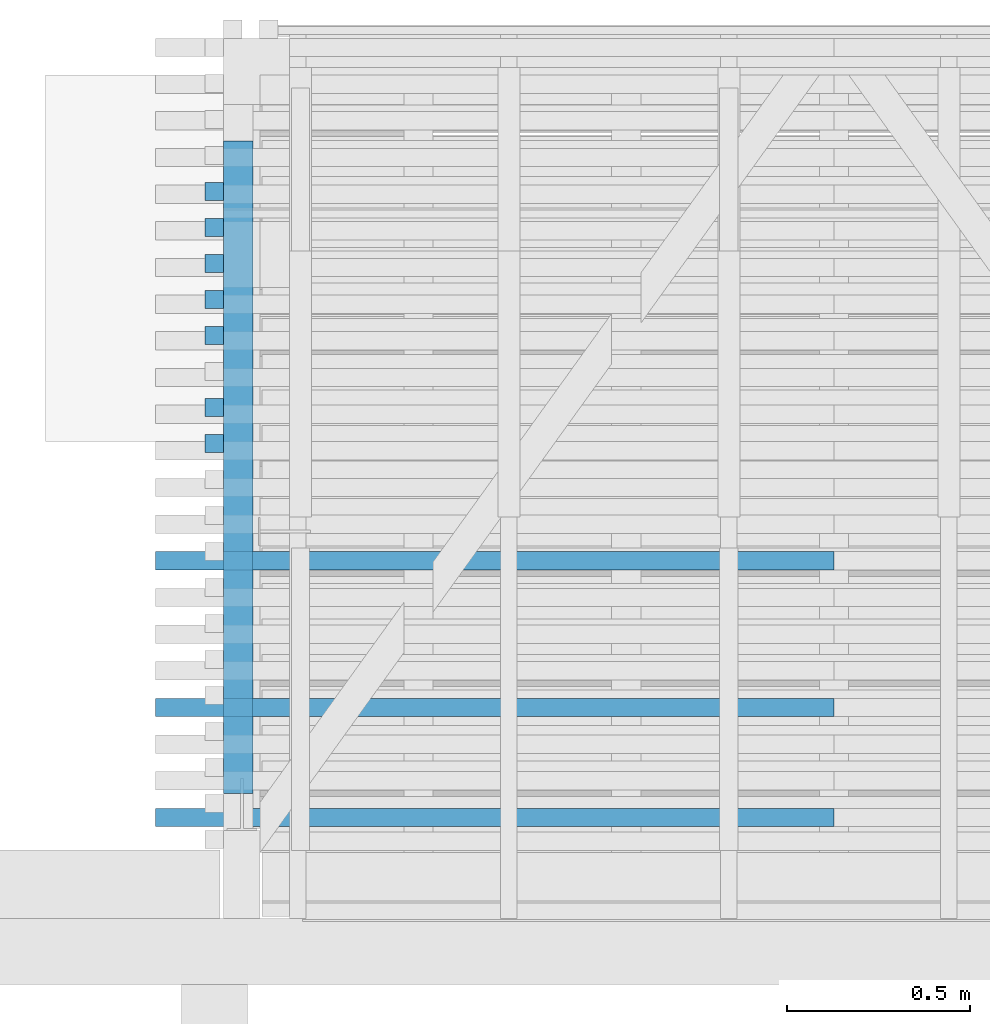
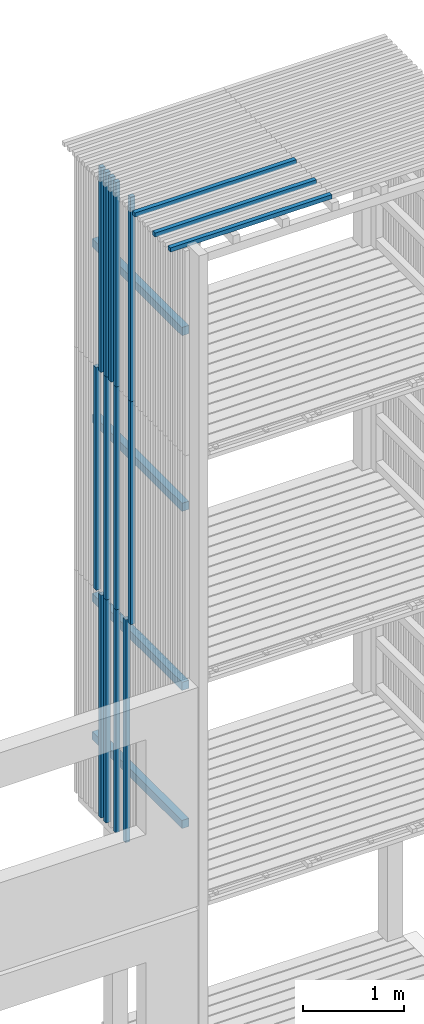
# One storey, part 60 of 182: 20 beams.
"""IFC2X3 building model written with IfcOpenShell, lengths in metres."""

from ifc_helpers import new_model, si_unit, frame, origin, place, context, project, spatial, faceted_brep, element, save


model = new_model("IFC2X3")

# Units and contexts
model_context = context("Model", 3, precision=1e-06, world=origin())
ifc_project = project(units=[si_unit("LENGTHUNIT", "METRE"), si_unit("PLANEANGLEUNIT", "RADIAN")], contexts=[model_context])

# Site, building, storey
site = spatial("IfcSite", under=ifc_project, CompositionType="ELEMENT")
building = spatial("IfcBuilding", under=site, CompositionType="ELEMENT")
storey = spatial("IfcBuildingStorey", under=building, Name="vs", CompositionType="ELEMENT", Elevation=-0.85)

# Beams
placement = place(None, origin())
beam_1_placement = place(placement, frame((23.019999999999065, 11.765077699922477, 5.274999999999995), z_axis=(1.0, 0.0, 0.0), x_axis=(0.0, 1e-15, 1.0)))
element("IfcBeam", 1, at=beam_1_placement, inside=storey, Name="Bardage", context=model_context, shape_type="Brep", body=[
    faceted_brep([(2.699999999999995, 0.025000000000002, 0.025000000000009), (2.699999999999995, -0.025000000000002, 0.025000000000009), (2.699999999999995, -0.025000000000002, -0.025000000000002), (2.699999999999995, 0.025000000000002, -0.025000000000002), (1e-15, 0.024999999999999, 0.025000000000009), (2.699999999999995, 0.025000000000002, 0.025000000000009), (2.699999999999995, 0.025000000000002, -0.025000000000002), (1e-15, 0.024999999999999, -0.025000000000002), (1e-15, -0.025000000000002, 0.025000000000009), (1e-15, 0.024999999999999, 0.025000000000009), (1e-15, 0.024999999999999, -0.025000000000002), (1e-15, -0.025000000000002, -0.025000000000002), (1e-15, 0.024999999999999, 0.025000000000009), (1e-15, -0.025000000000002, 0.025000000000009), (2.699999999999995, -0.025000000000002, 0.025000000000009), (2.699999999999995, 0.025000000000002, 0.025000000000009), (1e-15, -0.025000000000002, 0.025000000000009), (1e-15, -0.025000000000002, -0.025000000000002), (2.699999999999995, -0.025000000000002, -0.025000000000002), (2.699999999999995, -0.025000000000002, 0.025000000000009), (1e-15, -0.025000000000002, -0.025000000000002), (1e-15, 0.024999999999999, -0.025000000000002), (2.699999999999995, 0.025000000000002, -0.025000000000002), (2.699999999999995, -0.025000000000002, -0.025000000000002)], [[[0, 1, 2, 3]], [[4, 5, 6, 7]], [[8, 9, 10, 11]], [[12, 13, 14, 15]], [[16, 17, 18, 19]], [[20, 21, 22, 23]]]),
])
beam_2_placement = place(placement, frame((23.019999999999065, 12.354168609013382, 7.974999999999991), z_axis=(1.0, 0.0, 0.0), x_axis=(0.0, 0.0, 1.0)))
element("IfcBeam", 2, at=beam_2_placement, inside=storey, Name="Bardage", context=model_context, shape_type="Brep", body=[
    faceted_brep([(0.0, -0.024999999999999, 0.025000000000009), (0.0, 0.025000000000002, 0.025000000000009), (0.0, 0.025000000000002, -0.025000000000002), (0.0, -0.024999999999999, -0.025000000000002), (2.479999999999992, 0.025000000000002, -0.025000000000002), (2.479999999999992, 0.025000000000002, 0.025000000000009), (2.479999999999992, -0.024999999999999, 0.025000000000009), (2.479999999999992, -0.024999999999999, -0.025000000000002), (0.0, 0.025000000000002, 0.025000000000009), (0.0, -0.024999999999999, 0.025000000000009), (2.479999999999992, -0.024999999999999, 0.025000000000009), (2.479999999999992, 0.025000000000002, 0.025000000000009), (0.0, 0.025000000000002, -0.025000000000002), (0.0, 0.025000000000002, 0.025000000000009), (2.479999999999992, 0.025000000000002, 0.025000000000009), (2.479999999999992, 0.025000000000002, -0.025000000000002), (0.0, -0.024999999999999, -0.025000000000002), (0.0, 0.025000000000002, -0.025000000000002), (2.479999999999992, 0.025000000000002, -0.025000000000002), (2.479999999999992, -0.024999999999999, -0.025000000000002), (2.479999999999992, -0.024999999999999, 0.025000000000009), (0.0, -0.024999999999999, 0.025000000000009), (0.0, -0.024999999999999, -0.025000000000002), (2.479999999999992, -0.024999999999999, -0.025000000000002)], [[[0, 1, 2, 3]], [[4, 5, 6, 7]], [[8, 9, 10, 11]], [[12, 13, 14, 15]], [[16, 17, 18, 19]], [[20, 21, 22, 23]]]),
])
beam_3_placement = place(placement, frame((23.019999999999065, 12.354168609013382, 2.575000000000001), z_axis=(1.0, 0.0, 0.0), x_axis=(0.0, 0.0, 1.0)))
element("IfcBeam", 3, at=beam_3_placement, inside=storey, Name="Bardage", context=model_context, shape_type="Brep", body=[
    faceted_brep([(2.699961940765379, -0.024999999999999, 0.025000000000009), (2.699961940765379, -0.024999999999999, -0.025000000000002), (2.699961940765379, 0.025000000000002, -0.025000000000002), (2.699961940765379, 0.025000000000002, 0.025000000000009), (0.0, -0.024999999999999, 0.025000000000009), (2.699961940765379, -0.024999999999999, 0.025000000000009), (2.699961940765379, 0.025000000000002, 0.025000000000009), (0.0, 0.025000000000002, 0.025000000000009), (0.0, -0.024999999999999, 0.025000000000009), (0.0, 0.025000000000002, 0.025000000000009), (0.0, 0.025000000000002, -0.025000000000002), (0.0, -0.024999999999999, -0.025000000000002), (0.0, -0.024999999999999, 0.025000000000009), (0.0, -0.024999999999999, -0.025000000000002), (2.699961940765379, -0.024999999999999, -0.025000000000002), (2.699961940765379, -0.024999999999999, 0.025000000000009), (0.0, -0.024999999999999, -0.025000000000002), (0.0, 0.025000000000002, -0.025000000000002), (2.699961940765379, 0.025000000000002, -0.025000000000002), (2.699961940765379, -0.024999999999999, -0.025000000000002), (0.0, 0.025000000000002, -0.025000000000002), (0.0, 0.025000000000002, 0.025000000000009), (2.699961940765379, 0.025000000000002, 0.025000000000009), (2.699961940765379, 0.025000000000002, -0.025000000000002)], [[[0, 1, 2, 3]], [[4, 5, 6, 7]], [[8, 9, 10, 11]], [[12, 13, 14, 15]], [[16, 17, 18, 19]], [[20, 21, 22, 23]]]),
])
beam_4_placement = place(placement, frame((23.08499999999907, 10.8100776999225, 5.074999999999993), z_axis=(0.0, 0.0, 1.0), x_axis=(0.0, 1.0, 0.0)))
element("IfcBeam", 4, at=beam_4_placement, inside=storey, Name="Support bardage", context=model_context, shape_type="Brep", body=[
    faceted_brep([(1.779999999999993, 0.039999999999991, -0.050000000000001), (1.779999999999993, 0.039999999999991, 0.050000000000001), (1.779999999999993, -0.040000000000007, 0.050000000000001), (1.779999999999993, -0.040000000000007, -0.050000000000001), (1.779999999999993, -0.040000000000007, 0.050000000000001), (1.779999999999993, 0.039999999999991, 0.050000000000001), (-4e-15, 0.039999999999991, 0.050000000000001), (-4e-15, -0.040000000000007, 0.050000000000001), (-4e-15, 0.039999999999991, 0.050000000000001), (1.779999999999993, 0.039999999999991, 0.050000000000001), (1.779999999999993, 0.039999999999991, -0.050000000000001), (-4e-15, 0.039999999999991, -0.050000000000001), (1.779999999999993, -0.040000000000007, -0.050000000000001), (1.779999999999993, -0.040000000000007, 0.050000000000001), (-4e-15, -0.040000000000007, 0.050000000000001), (-4e-15, -0.040000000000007, -0.050000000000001), (-4e-15, 0.039999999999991, -0.050000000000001), (1.779999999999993, 0.039999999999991, -0.050000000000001), (1.779999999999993, -0.040000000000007, -0.050000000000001), (-4e-15, -0.040000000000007, -0.050000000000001), (-4e-15, 0.039999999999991, 0.050000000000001), (-4e-15, 0.039999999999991, -0.050000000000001), (-4e-15, -0.040000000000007, -0.050000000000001), (-4e-15, -0.040000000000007, 0.050000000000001)], [[[0, 1, 2, 3]], [[4, 5, 6, 7]], [[8, 9, 10, 11]], [[12, 13, 14, 15]], [[16, 17, 18, 19]], [[20, 21, 22, 23]]]),
])
beam_5_placement = place(placement, frame((23.019999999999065, 12.255986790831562, 7.974999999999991), z_axis=(1.0, 0.0, 0.0), x_axis=(0.0, 0.0, 1.0)))
element("IfcBeam", 5, at=beam_5_placement, inside=storey, Name="Bardage", context=model_context, shape_type="Brep", body=[
    faceted_brep([(0.0, -0.025000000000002, 0.025000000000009), (0.0, 0.024999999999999, 0.025000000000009), (0.0, 0.024999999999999, -0.025000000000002), (0.0, -0.025000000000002, -0.025000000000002), (2.479999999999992, 0.024999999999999, -0.025000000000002), (2.479999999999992, 0.024999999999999, 0.025000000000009), (2.479999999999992, -0.025000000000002, 0.025000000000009), (2.479999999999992, -0.025000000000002, -0.025000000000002), (0.0, 0.024999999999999, 0.025000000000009), (0.0, -0.025000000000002, 0.025000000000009), (2.479999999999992, -0.025000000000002, 0.025000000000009), (2.479999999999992, 0.024999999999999, 0.025000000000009), (0.0, 0.024999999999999, -0.025000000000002), (0.0, 0.024999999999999, 0.025000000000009), (2.479999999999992, 0.024999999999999, 0.025000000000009), (2.479999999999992, 0.024999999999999, -0.025000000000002), (0.0, -0.025000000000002, -0.025000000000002), (0.0, 0.024999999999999, -0.025000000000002), (2.479999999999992, 0.024999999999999, -0.025000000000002), (2.479999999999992, -0.025000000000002, -0.025000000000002), (2.479999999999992, -0.025000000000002, 0.025000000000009), (0.0, -0.025000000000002, 0.025000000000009), (0.0, -0.025000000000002, -0.025000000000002), (2.479999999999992, -0.025000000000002, -0.025000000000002)], [[[0, 1, 2, 3]], [[4, 5, 6, 7]], [[8, 9, 10, 11]], [[12, 13, 14, 15]], [[16, 17, 18, 19]], [[20, 21, 22, 23]]]),
])
beam_6_placement = place(placement, frame((23.019999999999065, 12.452350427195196, 5.274999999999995), z_axis=(1.0, 0.0, 0.0), x_axis=(0.0, 0.0, 1.0)))
element("IfcBeam", 6, at=beam_6_placement, inside=storey, Name="Bardage", context=model_context, shape_type="Brep", body=[
    faceted_brep([(2.699999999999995, 0.024999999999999, 0.025000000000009), (2.699999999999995, -0.024999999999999, 0.025000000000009), (2.699999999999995, -0.024999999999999, -0.025000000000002), (2.699999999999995, 0.024999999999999, -0.025000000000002), (1e-15, 0.024999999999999, 0.025000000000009), (2.699999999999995, 0.024999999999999, 0.025000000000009), (2.699999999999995, 0.024999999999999, -0.025000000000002), (1e-15, 0.024999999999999, -0.025000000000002), (1e-15, -0.024999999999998, 0.025000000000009), (1e-15, 0.024999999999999, 0.025000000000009), (1e-15, 0.024999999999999, -0.025000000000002), (1e-15, -0.024999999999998, -0.025000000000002), (1e-15, 0.024999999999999, 0.025000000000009), (1e-15, -0.024999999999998, 0.025000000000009), (2.699999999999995, -0.024999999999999, 0.025000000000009), (2.699999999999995, 0.024999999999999, 0.025000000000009), (1e-15, -0.024999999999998, 0.025000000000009), (1e-15, -0.024999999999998, -0.025000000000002), (2.699999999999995, -0.024999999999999, -0.025000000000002), (2.699999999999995, -0.024999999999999, 0.025000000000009), (1e-15, -0.024999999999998, -0.025000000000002), (1e-15, 0.024999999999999, -0.025000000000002), (2.699999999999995, 0.024999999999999, -0.025000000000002), (2.699999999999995, -0.024999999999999, -0.025000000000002)], [[[0, 1, 2, 3]], [[4, 5, 6, 7]], [[8, 9, 10, 11]], [[12, 13, 14, 15]], [[16, 17, 18, 19]], [[20, 21, 22, 23]]]),
])
beam_7_placement = place(placement, frame((23.019999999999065, 11.863259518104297, 2.575000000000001), z_axis=(1.0, 0.0, 0.0), x_axis=(0.0, 0.0, 1.0)))
element("IfcBeam", 7, at=beam_7_placement, inside=storey, Name="Bardage", context=model_context, shape_type="Brep", body=[
    faceted_brep([(2.699961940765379, -0.024999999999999, 0.025000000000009), (2.699961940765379, -0.024999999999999, -0.025000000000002), (2.699961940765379, 0.024999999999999, -0.025000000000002), (2.699961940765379, 0.024999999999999, 0.025000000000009), (0.0, -0.024999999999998, 0.025000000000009), (2.699961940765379, -0.024999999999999, 0.025000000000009), (2.699961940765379, 0.024999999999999, 0.025000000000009), (0.0, 0.025000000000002, 0.025000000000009), (0.0, -0.024999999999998, 0.025000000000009), (0.0, 0.025000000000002, 0.025000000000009), (0.0, 0.025000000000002, -0.025000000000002), (0.0, -0.024999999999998, -0.025000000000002), (0.0, -0.024999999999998, 0.025000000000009), (0.0, -0.024999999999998, -0.025000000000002), (2.699961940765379, -0.024999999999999, -0.025000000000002), (2.699961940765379, -0.024999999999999, 0.025000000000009), (0.0, -0.024999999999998, -0.025000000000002), (0.0, 0.025000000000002, -0.025000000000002), (2.699961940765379, 0.024999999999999, -0.025000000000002), (2.699961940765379, -0.024999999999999, -0.025000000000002), (0.0, 0.025000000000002, -0.025000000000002), (0.0, 0.025000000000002, 0.025000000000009), (2.699961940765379, 0.024999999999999, 0.025000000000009), (2.699961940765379, 0.024999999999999, -0.025000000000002)], [[[0, 1, 2, 3]], [[4, 5, 6, 7]], [[8, 9, 10, 11]], [[12, 13, 14, 15]], [[16, 17, 18, 19]], [[20, 21, 22, 23]]]),
])
beam_8_placement = place(placement, frame((23.08499999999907, 10.8100776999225, 9.37249999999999), z_axis=(0.0, 0.0, 1.0), x_axis=(0.0, 1.0, 0.0)))
element("IfcBeam", 8, at=beam_8_placement, inside=storey, Name="Support bardage", context=model_context, shape_type="Brep", body=[
    faceted_brep([(1.779999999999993, 0.039999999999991, -0.050000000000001), (1.779999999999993, 0.039999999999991, 0.050000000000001), (1.779999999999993, -0.040000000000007, 0.050000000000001), (1.779999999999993, -0.040000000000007, -0.050000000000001), (1.779999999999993, -0.040000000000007, 0.050000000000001), (1.779999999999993, 0.039999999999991, 0.050000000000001), (-4e-15, 0.039999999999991, 0.050000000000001), (-4e-15, -0.040000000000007, 0.050000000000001), (-4e-15, 0.039999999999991, 0.050000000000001), (1.779999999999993, 0.039999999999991, 0.050000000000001), (1.779999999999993, 0.039999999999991, -0.050000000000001), (-4e-15, 0.039999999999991, -0.050000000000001), (1.779999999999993, -0.040000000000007, -0.050000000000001), (1.779999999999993, -0.040000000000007, 0.050000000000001), (-4e-15, -0.040000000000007, 0.050000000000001), (-4e-15, -0.040000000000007, -0.050000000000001), (-4e-15, 0.039999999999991, -0.050000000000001), (1.779999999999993, 0.039999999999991, -0.050000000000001), (1.779999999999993, -0.040000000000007, -0.050000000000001), (-4e-15, -0.040000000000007, -0.050000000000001), (-4e-15, 0.039999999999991, 0.050000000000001), (-4e-15, 0.039999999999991, -0.050000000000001), (-4e-15, -0.040000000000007, -0.050000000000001), (-4e-15, -0.040000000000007, 0.050000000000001)], [[[0, 1, 2, 3]], [[4, 5, 6, 7]], [[8, 9, 10, 11]], [[12, 13, 14, 15]], [[16, 17, 18, 19]], [[20, 21, 22, 23]]]),
])
beam_9_placement = place(placement, frame((23.019999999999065, 12.157804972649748, 7.974999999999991), z_axis=(1.0, 0.0, 0.0), x_axis=(0.0, 0.0, 1.0)))
element("IfcBeam", 9, at=beam_9_placement, inside=storey, Name="Bardage", context=model_context, shape_type="Brep", body=[
    faceted_brep([(0.0, -0.024999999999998, 0.025000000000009), (0.0, 0.024999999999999, 0.025000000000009), (0.0, 0.024999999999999, -0.025000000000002), (0.0, -0.024999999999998, -0.025000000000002), (2.479999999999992, 0.024999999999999, -0.025000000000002), (2.479999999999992, 0.024999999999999, 0.025000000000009), (2.479999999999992, -0.024999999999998, 0.025000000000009), (2.479999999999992, -0.024999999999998, -0.025000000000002), (0.0, 0.024999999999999, 0.025000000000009), (0.0, -0.024999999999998, 0.025000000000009), (2.479999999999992, -0.024999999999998, 0.025000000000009), (2.479999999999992, 0.024999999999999, 0.025000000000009), (0.0, 0.024999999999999, -0.025000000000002), (0.0, 0.024999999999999, 0.025000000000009), (2.479999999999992, 0.024999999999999, 0.025000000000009), (2.479999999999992, 0.024999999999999, -0.025000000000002), (0.0, -0.024999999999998, -0.025000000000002), (0.0, 0.024999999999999, -0.025000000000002), (2.479999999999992, 0.024999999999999, -0.025000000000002), (2.479999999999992, -0.024999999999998, -0.025000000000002), (2.479999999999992, -0.024999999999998, 0.025000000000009), (0.0, -0.024999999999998, 0.025000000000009), (0.0, -0.024999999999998, -0.025000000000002), (2.479999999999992, -0.024999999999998, -0.025000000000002)], [[[0, 1, 2, 3]], [[4, 5, 6, 7]], [[8, 9, 10, 11]], [[12, 13, 14, 15]], [[16, 17, 18, 19]], [[20, 21, 22, 23]]]),
])
beam_10_placement = place(placement, frame((23.019999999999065, 12.059623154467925, 7.974999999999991), z_axis=(1.0, 0.0, 0.0), x_axis=(0.0, 0.0, 1.0)))
element("IfcBeam", 10, at=beam_10_placement, inside=storey, Name="Bardage", context=model_context, shape_type="Brep", body=[
    faceted_brep([(0.0, -0.025000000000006, 0.025000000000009), (0.0, 0.024999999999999, 0.025000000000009), (0.0, 0.024999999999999, -0.025000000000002), (0.0, -0.025000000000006, -0.025000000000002), (2.479999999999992, 0.024999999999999, -0.025000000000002), (2.479999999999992, 0.024999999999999, 0.025000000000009), (2.479999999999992, -0.025000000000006, 0.025000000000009), (2.479999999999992, -0.025000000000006, -0.025000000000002), (0.0, 0.024999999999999, 0.025000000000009), (0.0, -0.025000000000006, 0.025000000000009), (2.479999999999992, -0.025000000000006, 0.025000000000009), (2.479999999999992, 0.024999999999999, 0.025000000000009), (0.0, 0.024999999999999, -0.025000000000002), (0.0, 0.024999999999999, 0.025000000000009), (2.479999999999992, 0.024999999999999, 0.025000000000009), (2.479999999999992, 0.024999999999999, -0.025000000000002), (0.0, -0.025000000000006, -0.025000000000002), (0.0, 0.024999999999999, -0.025000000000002), (2.479999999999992, 0.024999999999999, -0.025000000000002), (2.479999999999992, -0.025000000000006, -0.025000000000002), (2.479999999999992, -0.025000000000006, 0.025000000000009), (0.0, -0.025000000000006, 0.025000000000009), (0.0, -0.025000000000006, -0.025000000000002), (2.479999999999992, -0.025000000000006, -0.025000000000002)], [[[0, 1, 2, 3]], [[4, 5, 6, 7]], [[8, 9, 10, 11]], [[12, 13, 14, 15]], [[16, 17, 18, 19]], [[20, 21, 22, 23]]]),
])
beam_11_placement = place(placement, frame((23.019999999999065, 12.059623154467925, 2.575000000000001), z_axis=(1.0, 0.0, 0.0), x_axis=(0.0, 0.0, 1.0)))
element("IfcBeam", 11, at=beam_11_placement, inside=storey, Name="Bardage", context=model_context, shape_type="Brep", body=[
    faceted_brep([(2.699961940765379, -0.025000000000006, 0.025000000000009), (2.699961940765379, -0.025000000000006, -0.025000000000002), (2.699961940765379, 0.024999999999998, -0.025000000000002), (2.699961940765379, 0.024999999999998, 0.025000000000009), (0.0, -0.025000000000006, 0.025000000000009), (2.699961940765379, -0.025000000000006, 0.025000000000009), (2.699961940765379, 0.024999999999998, 0.025000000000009), (0.0, 0.024999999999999, 0.025000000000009), (0.0, -0.025000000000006, 0.025000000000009), (0.0, 0.024999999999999, 0.025000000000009), (0.0, 0.024999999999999, -0.025000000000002), (0.0, -0.025000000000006, -0.025000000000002), (0.0, -0.025000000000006, 0.025000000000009), (0.0, -0.025000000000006, -0.025000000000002), (2.699961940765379, -0.025000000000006, -0.025000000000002), (2.699961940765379, -0.025000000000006, 0.025000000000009), (0.0, -0.025000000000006, -0.025000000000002), (0.0, 0.024999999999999, -0.025000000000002), (2.699961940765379, 0.024999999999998, -0.025000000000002), (2.699961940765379, -0.025000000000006, -0.025000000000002), (0.0, 0.024999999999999, -0.025000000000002), (0.0, 0.024999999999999, 0.025000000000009), (2.699961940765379, 0.024999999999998, 0.025000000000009), (2.699961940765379, 0.024999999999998, -0.025000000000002)], [[[0, 1, 2, 3]], [[4, 5, 6, 7]], [[8, 9, 10, 11]], [[12, 13, 14, 15]], [[16, 17, 18, 19]], [[20, 21, 22, 23]]]),
])
beam_12_placement = place(placement, frame((23.019999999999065, 12.059623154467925, 5.274999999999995), z_axis=(1.0, 0.0, 0.0), x_axis=(0.0, 0.0, 1.0)))
element("IfcBeam", 12, at=beam_12_placement, inside=storey, Name="Bardage", context=model_context, shape_type="Brep", body=[
    faceted_brep([(2.699999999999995, 0.024999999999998, 0.025000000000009), (2.699999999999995, -0.025000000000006, 0.025000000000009), (2.699999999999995, -0.025000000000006, -0.025000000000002), (2.699999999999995, 0.024999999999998, -0.025000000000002), (1e-15, 0.024999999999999, 0.025000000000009), (2.699999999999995, 0.024999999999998, 0.025000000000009), (2.699999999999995, 0.024999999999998, -0.025000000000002), (1e-15, 0.024999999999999, -0.025000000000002), (1e-15, -0.025000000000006, 0.025000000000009), (1e-15, 0.024999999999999, 0.025000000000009), (1e-15, 0.024999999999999, -0.025000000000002), (1e-15, -0.025000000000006, -0.025000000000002), (1e-15, 0.024999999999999, 0.025000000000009), (1e-15, -0.025000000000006, 0.025000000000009), (2.699999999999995, -0.025000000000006, 0.025000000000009), (2.699999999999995, 0.024999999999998, 0.025000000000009), (1e-15, -0.025000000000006, 0.025000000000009), (1e-15, -0.025000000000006, -0.025000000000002), (2.699999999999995, -0.025000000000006, -0.025000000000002), (2.699999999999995, -0.025000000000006, 0.025000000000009), (1e-15, -0.025000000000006, -0.025000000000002), (1e-15, 0.024999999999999, -0.025000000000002), (2.699999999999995, 0.024999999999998, -0.025000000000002), (2.699999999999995, -0.025000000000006, -0.025000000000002)], [[[0, 1, 2, 3]], [[4, 5, 6, 7]], [[8, 9, 10, 11]], [[12, 13, 14, 15]], [[16, 17, 18, 19]], [[20, 21, 22, 23]]]),
])
beam_13_placement = place(placement, frame((23.019999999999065, 12.255986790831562, 5.274999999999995), z_axis=(1.0, 0.0, 0.0), x_axis=(0.0, 0.0, 1.0)))
element("IfcBeam", 13, at=beam_13_placement, inside=storey, Name="Bardage", context=model_context, shape_type="Brep", body=[
    faceted_brep([(2.699999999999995, 0.024999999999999, 0.025000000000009), (2.699999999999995, -0.025000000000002, 0.025000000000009), (2.699999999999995, -0.025000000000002, -0.025000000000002), (2.699999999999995, 0.024999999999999, -0.025000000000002), (1e-15, 0.024999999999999, 0.025000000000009), (2.699999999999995, 0.024999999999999, 0.025000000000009), (2.699999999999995, 0.024999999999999, -0.025000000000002), (1e-15, 0.024999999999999, -0.025000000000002), (1e-15, -0.025000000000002, 0.025000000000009), (1e-15, 0.024999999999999, 0.025000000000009), (1e-15, 0.024999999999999, -0.025000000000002), (1e-15, -0.025000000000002, -0.025000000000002), (1e-15, 0.024999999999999, 0.025000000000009), (1e-15, -0.025000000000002, 0.025000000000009), (2.699999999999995, -0.025000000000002, 0.025000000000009), (2.699999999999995, 0.024999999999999, 0.025000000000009), (1e-15, -0.025000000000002, 0.025000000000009), (1e-15, -0.025000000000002, -0.025000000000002), (2.699999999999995, -0.025000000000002, -0.025000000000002), (2.699999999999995, -0.025000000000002, 0.025000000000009), (1e-15, -0.025000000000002, -0.025000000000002), (1e-15, 0.024999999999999, -0.025000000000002), (2.699999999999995, 0.024999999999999, -0.025000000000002), (2.699999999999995, -0.025000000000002, -0.025000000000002)], [[[0, 1, 2, 3]], [[4, 5, 6, 7]], [[8, 9, 10, 11]], [[12, 13, 14, 15]], [[16, 17, 18, 19]], [[20, 21, 22, 23]]]),
])
beam_14_placement = place(placement, frame((23.08499999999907, 10.8100776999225, 7.24374999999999), z_axis=(0.0, 0.0, 1.0), x_axis=(0.0, 1.0, 0.0)))
element("IfcBeam", 14, at=beam_14_placement, inside=storey, Name="Support bardage", context=model_context, shape_type="Brep", body=[
    faceted_brep([(1.779999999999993, 0.039999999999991, -0.049999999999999), (1.779999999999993, 0.039999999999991, 0.050000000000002), (1.779999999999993, -0.040000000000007, 0.050000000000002), (1.779999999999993, -0.040000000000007, -0.049999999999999), (1.779999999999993, -0.040000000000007, 0.050000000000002), (1.779999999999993, 0.039999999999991, 0.050000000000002), (-4e-15, 0.039999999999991, 0.050000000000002), (-4e-15, -0.040000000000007, 0.050000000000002), (-4e-15, 0.039999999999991, 0.050000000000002), (1.779999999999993, 0.039999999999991, 0.050000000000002), (1.779999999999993, 0.039999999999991, -0.049999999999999), (-4e-15, 0.039999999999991, -0.049999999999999), (1.779999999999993, -0.040000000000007, -0.049999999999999), (1.779999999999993, -0.040000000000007, 0.050000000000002), (-4e-15, -0.040000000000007, 0.050000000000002), (-4e-15, -0.040000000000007, -0.049999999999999), (-4e-15, 0.039999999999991, -0.049999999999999), (1.779999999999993, 0.039999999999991, -0.049999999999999), (1.779999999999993, -0.040000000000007, -0.049999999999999), (-4e-15, -0.040000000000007, -0.049999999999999), (-4e-15, 0.039999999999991, 0.050000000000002), (-4e-15, 0.039999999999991, -0.049999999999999), (-4e-15, -0.040000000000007, -0.049999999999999), (-4e-15, -0.040000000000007, 0.050000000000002)], [[[0, 1, 2, 3]], [[4, 5, 6, 7]], [[8, 9, 10, 11]], [[12, 13, 14, 15]], [[16, 17, 18, 19]], [[20, 21, 22, 23]]]),
])
beam_15_placement = place(placement, frame((23.019999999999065, 12.255986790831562, 2.575000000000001), z_axis=(1.0, 0.0, 0.0), x_axis=(0.0, 0.0, 1.0)))
element("IfcBeam", 15, at=beam_15_placement, inside=storey, Name="Bardage", context=model_context, shape_type="Brep", body=[
    faceted_brep([(2.699961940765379, -0.025000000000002, 0.025000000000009), (2.699961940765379, -0.025000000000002, -0.025000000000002), (2.699961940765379, 0.024999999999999, -0.025000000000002), (2.699961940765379, 0.024999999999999, 0.025000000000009), (0.0, -0.025000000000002, 0.025000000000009), (2.699961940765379, -0.025000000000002, 0.025000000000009), (2.699961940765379, 0.024999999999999, 0.025000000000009), (0.0, 0.024999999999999, 0.025000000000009), (0.0, -0.025000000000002, 0.025000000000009), (0.0, 0.024999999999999, 0.025000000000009), (0.0, 0.024999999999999, -0.025000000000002), (0.0, -0.025000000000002, -0.025000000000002), (0.0, -0.025000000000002, 0.025000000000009), (0.0, -0.025000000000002, -0.025000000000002), (2.699961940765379, -0.025000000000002, -0.025000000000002), (2.699961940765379, -0.025000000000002, 0.025000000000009), (0.0, -0.025000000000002, -0.025000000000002), (0.0, 0.024999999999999, -0.025000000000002), (2.699961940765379, 0.024999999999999, -0.025000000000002), (2.699961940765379, -0.025000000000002, -0.025000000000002), (0.0, 0.024999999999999, -0.025000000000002), (0.0, 0.024999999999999, 0.025000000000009), (2.699961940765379, 0.024999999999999, 0.025000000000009), (2.699961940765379, 0.024999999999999, -0.025000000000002)], [[[0, 1, 2, 3]], [[4, 5, 6, 7]], [[8, 9, 10, 11]], [[12, 13, 14, 15]], [[16, 17, 18, 19]], [[20, 21, 22, 23]]]),
])
beam_16_placement = place(placement, frame((23.08499999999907, 10.8100776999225, 3.401250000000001), z_axis=(0.0, 0.0, 1.0), x_axis=(0.0, 1.0, 0.0)))
element("IfcBeam", 16, at=beam_16_placement, inside=storey, Name="Support bardage", context=model_context, shape_type="Brep", body=[
    faceted_brep([(1.779999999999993, 0.039999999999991, -0.050000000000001), (1.779999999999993, 0.039999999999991, 0.05), (1.779999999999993, -0.040000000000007, 0.05), (1.779999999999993, -0.040000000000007, -0.050000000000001), (1.779999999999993, -0.040000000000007, 0.05), (1.779999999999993, 0.039999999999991, 0.05), (-4e-15, 0.039999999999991, 0.05), (-4e-15, -0.040000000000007, 0.05), (-4e-15, 0.039999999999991, 0.05), (1.779999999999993, 0.039999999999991, 0.05), (1.779999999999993, 0.039999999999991, -0.050000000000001), (-4e-15, 0.039999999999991, -0.050000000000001), (1.779999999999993, -0.040000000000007, -0.050000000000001), (1.779999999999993, -0.040000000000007, 0.05), (-4e-15, -0.040000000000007, 0.05), (-4e-15, -0.040000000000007, -0.050000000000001), (-4e-15, 0.039999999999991, -0.050000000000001), (1.779999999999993, 0.039999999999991, -0.050000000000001), (1.779999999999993, -0.040000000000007, -0.050000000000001), (-4e-15, -0.040000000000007, -0.050000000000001), (-4e-15, 0.039999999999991, 0.05), (-4e-15, 0.039999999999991, -0.050000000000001), (-4e-15, -0.040000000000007, -0.050000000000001), (-4e-15, -0.040000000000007, 0.05)], [[[0, 1, 2, 3]], [[4, 5, 6, 7]], [[8, 9, 10, 11]], [[12, 13, 14, 15]], [[16, 17, 18, 19]], [[20, 21, 22, 23]]]),
])
beam_17_placement = place(placement, frame((23.019999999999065, 11.765077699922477, 7.974999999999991), z_axis=(1.0, 0.0, 0.0), x_axis=(0.0, 1e-15, 1.0)))
element("IfcBeam", 17, at=beam_17_placement, inside=storey, Name="Bardage", context=model_context, shape_type="Brep", body=[
    faceted_brep([(0.0, -0.025000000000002, 0.025000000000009), (0.0, 0.024999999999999, 0.025000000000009), (0.0, 0.024999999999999, -0.025000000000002), (0.0, -0.025000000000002, -0.025000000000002), (2.479999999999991, 0.025000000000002, -0.025000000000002), (2.479999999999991, 0.025000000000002, 0.025000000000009), (2.479999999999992, -0.025000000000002, 0.025000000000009), (2.479999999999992, -0.025000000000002, -0.025000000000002), (0.0, 0.024999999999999, 0.025000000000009), (0.0, -0.025000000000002, 0.025000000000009), (2.479999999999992, -0.025000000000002, 0.025000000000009), (2.479999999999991, 0.025000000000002, 0.025000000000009), (0.0, 0.024999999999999, -0.025000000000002), (0.0, 0.024999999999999, 0.025000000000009), (2.479999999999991, 0.025000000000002, 0.025000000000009), (2.479999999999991, 0.025000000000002, -0.025000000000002), (0.0, -0.025000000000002, -0.025000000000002), (0.0, 0.024999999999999, -0.025000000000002), (2.479999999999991, 0.025000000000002, -0.025000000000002), (2.479999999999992, -0.025000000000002, -0.025000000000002), (2.479999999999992, -0.025000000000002, 0.025000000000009), (0.0, -0.025000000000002, 0.025000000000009), (0.0, -0.025000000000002, -0.025000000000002), (2.479999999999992, -0.025000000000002, -0.025000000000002)], [[[0, 1, 2, 3]], [[4, 5, 6, 7]], [[8, 9, 10, 11]], [[12, 13, 14, 15]], [[16, 17, 18, 19]], [[20, 21, 22, 23]]]),
])
beam_18_placement = place(placement, frame((24.709999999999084, 11.045077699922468, 10.47999999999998), z_axis=(0.0, 0.0, 1.0), x_axis=(-1.0, -2e-15, 0.0)))
element("IfcBeam", 18, at=beam_18_placement, inside=storey, Name="Bardage", context=model_context, shape_type="Brep", body=[
    faceted_brep([(1.850000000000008, -0.025000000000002, -0.024999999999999), (1.850000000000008, -0.025000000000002, 0.025000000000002), (-1e-15, -0.025000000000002, 0.025000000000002), (-1e-15, -0.025000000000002, -0.024999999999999), (1.850000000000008, -0.025000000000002, 0.025000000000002), (1.850000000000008, -0.025000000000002, -0.024999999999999), (1.850000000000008, 0.024999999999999, -0.024999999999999), (1.850000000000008, 0.024999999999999, 0.025000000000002), (1.850000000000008, 0.024999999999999, -0.024999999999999), (1.850000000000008, -0.025000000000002, -0.024999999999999), (-1e-15, -0.025000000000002, -0.024999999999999), (-1e-15, 0.025000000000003, -0.024999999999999), (1.850000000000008, 0.024999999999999, 0.025000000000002), (1.850000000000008, 0.024999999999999, -0.024999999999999), (-1e-15, 0.025000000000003, -0.024999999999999), (-1e-15, 0.025000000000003, 0.025000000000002), (-1e-15, -0.025000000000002, 0.025000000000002), (1.850000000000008, -0.025000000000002, 0.025000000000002), (1.850000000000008, 0.024999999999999, 0.025000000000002), (-1e-15, 0.025000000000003, 0.025000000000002), (-1e-15, -0.025000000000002, -0.024999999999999), (-1e-15, -0.025000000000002, 0.025000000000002), (-1e-15, 0.025000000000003, 0.025000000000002), (-1e-15, 0.025000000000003, -0.024999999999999)], [[[0, 1, 2, 3]], [[4, 5, 6, 7]], [[8, 9, 10, 11]], [[12, 13, 14, 15]], [[16, 17, 18, 19]], [[20, 21, 22, 23]]]),
])
beam_19_placement = place(placement, frame((24.709999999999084, 10.745077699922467, 10.47999999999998), z_axis=(0.0, 0.0, 1.0), x_axis=(-1.0, 0.0, 0.0)))
element("IfcBeam", 19, at=beam_19_placement, inside=storey, Name="Bardage", context=model_context, shape_type="Brep", body=[
    faceted_brep([(1.850000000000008, -0.025000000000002, -0.024999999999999), (1.850000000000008, -0.025000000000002, 0.025000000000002), (-1e-15, -0.025000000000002, 0.025000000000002), (-1e-15, -0.025000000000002, -0.024999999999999), (1.850000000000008, -0.025000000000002, 0.025000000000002), (1.850000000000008, -0.025000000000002, -0.024999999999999), (1.850000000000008, 0.024999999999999, -0.024999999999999), (1.850000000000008, 0.024999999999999, 0.025000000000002), (1.850000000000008, 0.024999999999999, -0.024999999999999), (1.850000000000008, -0.025000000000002, -0.024999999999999), (-1e-15, -0.025000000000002, -0.024999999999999), (-1e-15, 0.024999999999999, -0.024999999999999), (1.850000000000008, 0.024999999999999, 0.025000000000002), (1.850000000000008, 0.024999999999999, -0.024999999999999), (-1e-15, 0.024999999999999, -0.024999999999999), (-1e-15, 0.024999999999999, 0.025000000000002), (-1e-15, -0.025000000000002, 0.025000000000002), (1.850000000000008, -0.025000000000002, 0.025000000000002), (1.850000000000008, 0.024999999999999, 0.025000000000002), (-1e-15, 0.024999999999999, 0.025000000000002), (-1e-15, -0.025000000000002, -0.024999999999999), (-1e-15, -0.025000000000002, 0.025000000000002), (-1e-15, 0.024999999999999, 0.025000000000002), (-1e-15, 0.024999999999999, -0.024999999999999)], [[[0, 1, 2, 3]], [[4, 5, 6, 7]], [[8, 9, 10, 11]], [[12, 13, 14, 15]], [[16, 17, 18, 19]], [[20, 21, 22, 23]]]),
])
beam_20_placement = place(placement, frame((24.709999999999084, 11.44507769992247, 10.47999999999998), z_axis=(0.0, 0.0, 1.0), x_axis=(-1.0, -2e-15, 0.0)))
element("IfcBeam", 20, at=beam_20_placement, inside=storey, Name="Bardage", context=model_context, shape_type="Brep", body=[
    faceted_brep([(1.850000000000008, -0.025000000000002, -0.024999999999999), (1.850000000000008, -0.025000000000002, 0.025000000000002), (-1e-15, -0.024999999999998, 0.025000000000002), (-1e-15, -0.024999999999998, -0.024999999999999), (1.850000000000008, -0.025000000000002, 0.025000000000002), (1.850000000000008, -0.025000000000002, -0.024999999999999), (1.850000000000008, 0.025000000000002, -0.024999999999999), (1.850000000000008, 0.025000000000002, 0.025000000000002), (1.850000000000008, 0.025000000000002, -0.024999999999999), (1.850000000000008, -0.025000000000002, -0.024999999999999), (-1e-15, -0.024999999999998, -0.024999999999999), (-1e-15, 0.025000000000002, -0.024999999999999), (1.850000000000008, 0.025000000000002, 0.025000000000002), (1.850000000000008, 0.025000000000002, -0.024999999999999), (-1e-15, 0.025000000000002, -0.024999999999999), (-1e-15, 0.025000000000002, 0.025000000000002), (-1e-15, -0.024999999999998, 0.025000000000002), (1.850000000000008, -0.025000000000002, 0.025000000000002), (1.850000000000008, 0.025000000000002, 0.025000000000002), (-1e-15, 0.025000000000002, 0.025000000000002), (-1e-15, -0.024999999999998, -0.024999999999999), (-1e-15, -0.024999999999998, 0.025000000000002), (-1e-15, 0.025000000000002, 0.025000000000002), (-1e-15, 0.025000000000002, -0.024999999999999)], [[[0, 1, 2, 3]], [[4, 5, 6, 7]], [[8, 9, 10, 11]], [[12, 13, 14, 15]], [[16, 17, 18, 19]], [[20, 21, 22, 23]]]),
])

save(model, "model.ifc")
